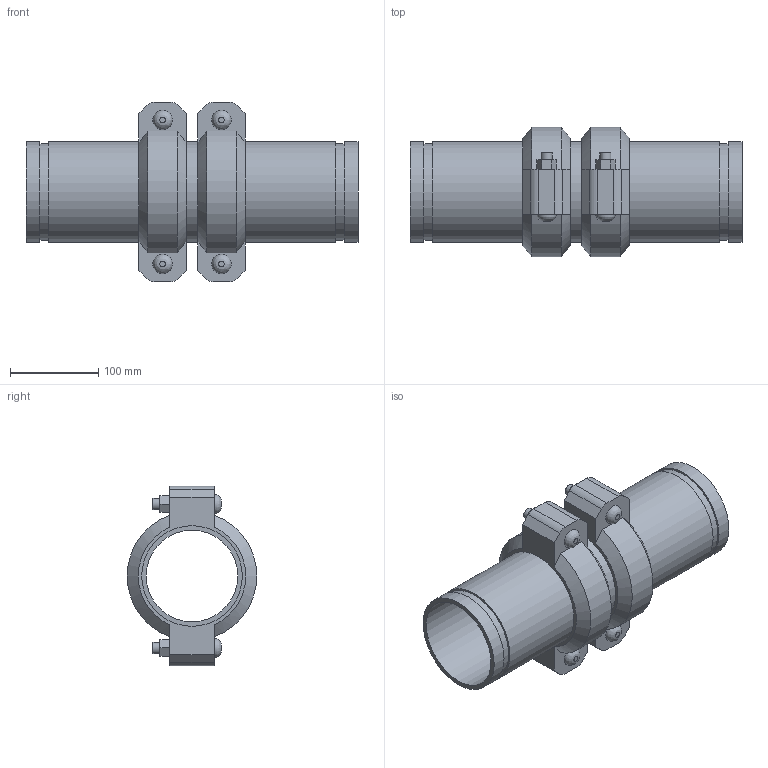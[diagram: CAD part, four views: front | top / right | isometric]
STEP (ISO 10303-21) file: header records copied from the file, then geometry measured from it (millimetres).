
FILE_DESCRIPTION(/* description */ ('VIC EXPANSION JOINT 2 COUPLINGS EXPANDED STYLE 155 (OGS)','CAx-IF Rec.Pracs.---Representation and Presentation of Product Manufacturing Information (PMI)---4.0---2014-10-13'),/* implementation_level */ '2;1');
FILE_NAME(/* name */ 'C:\Users\kkamble\AppData\Roaming\Autodesk\ApplicationPlugins\Victaulic.Temp\A706\Victaulic_IPS_Expansion Joint_Expanded_2 Couplings_Style 155 (OGS)_4 (100).stp',/* time_stamp */ '2021-06-26T23:56:31+02:00',/* author */ ('kkamble'),/* organization */ ('Victaulic'),/* preprocessor_version */ 'ST-DEVELOPER v17.2',/* originating_system */ 'Autodesk Inventor 2019',/* authorisation */ '');
FILE_SCHEMA (('AP242_MANAGED_MODEL_BASED_3D_ENGINEERING_MIM_LF { 1 0 10303 442 1 1 4 }'));
Length unit declared in the file: inch
Products named in the file (4): 155-04.0; Nipple-04.0; Nipple-04.0_1; 075-04.0
Assembly tree (5 placements, depth 2):
  155-04.0
    Nipple-04.0  x2
    Nipple-04.0_1
    075-04.0  x2
Bounding box: 377.19 x 147.32 x 203.96 mm (x, y, z)
Volume: 1579474.1 mm3; surface area: 428853.4 mm2
Topology: 5 solids, 9 shells, 150 faces, 356 edges, 252 vertices
Faces by surface type: plane 90, cylinder 48, cone 8, bspline 4
Full cylindrical faces by diameter (mm): 12.7 x8, 14.605 x4, 103.988 x3, 107.95 x2, 110.084 x6, 114.3 x13
Entity records: 2753 total; most frequent: CARTESIAN_POINT 489, DIRECTION 453, ORIENTED_EDGE 386, EDGE_CURVE 193, AXIS2_PLACEMENT_3D 180, VERTEX_POINT 138, EDGE_LOOP 107, LINE 93
